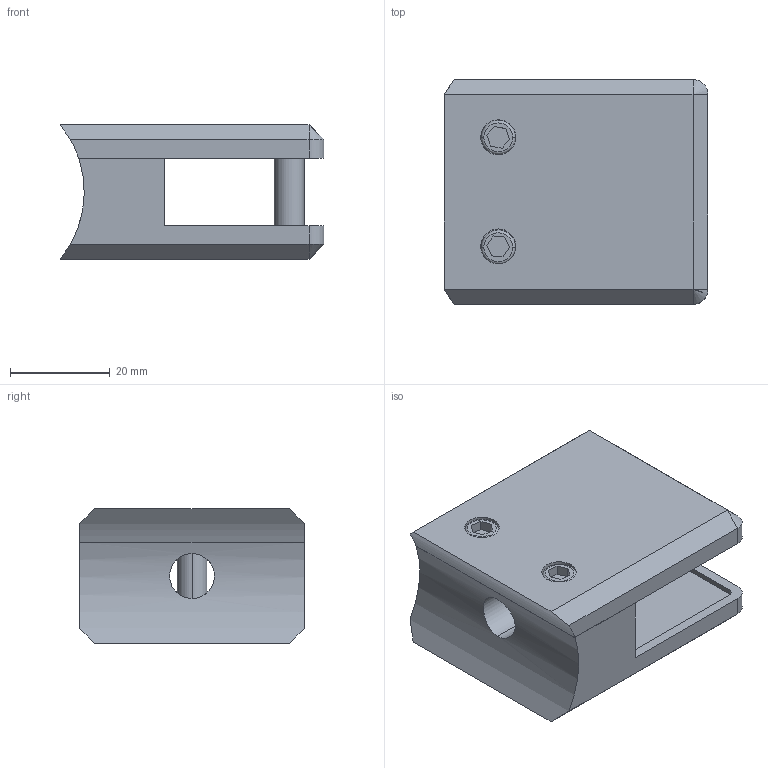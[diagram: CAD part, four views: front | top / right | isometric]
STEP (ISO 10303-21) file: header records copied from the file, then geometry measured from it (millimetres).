
FILE_DESCRIPTION (( 'STEP AP203' ), '1' );
FILE_NAME ('3D_GG4026_ G 42.4_188766300.STEP', '2024-11-05T08:07:51', ( '' ), ( '' ), 'SwSTEP 2.0', 'SolidWorks 2023', '' );
FILE_SCHEMA (( 'CONFIG_CONTROL_DESIGN' ));
Length unit declared in the file: millimetre
Products named in the file (1): 3D_GG4026_ G 42.4_188766300
Bounding box: 52.85 x 45 x 27 mm (x, y, z)
Volume: 35916.8 mm3; surface area: 20188.4 mm2
Topology: 5 solids, 5 shells, 138 faces, 318 edges, 202 vertices
Faces by surface type: plane 70, cylinder 54, cone 10, torus 4
Entity records: 4063 total; most frequent: CARTESIAN_POINT 770, DIRECTION 708, ORIENTED_EDGE 628, EDGE_CURVE 314, AXIS2_PLACEMENT_3D 262, VERTEX_POINT 202, LINE 184, VECTOR 184
